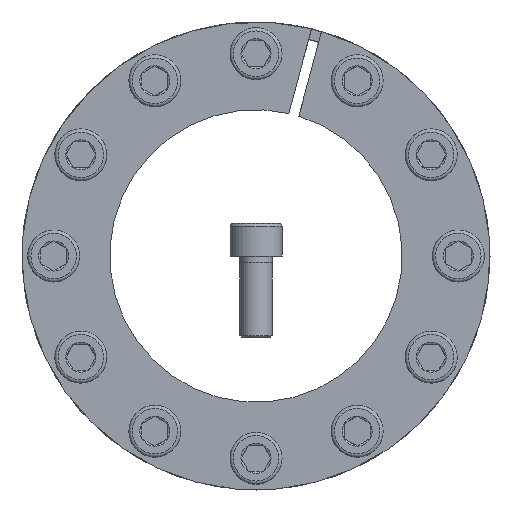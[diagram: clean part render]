
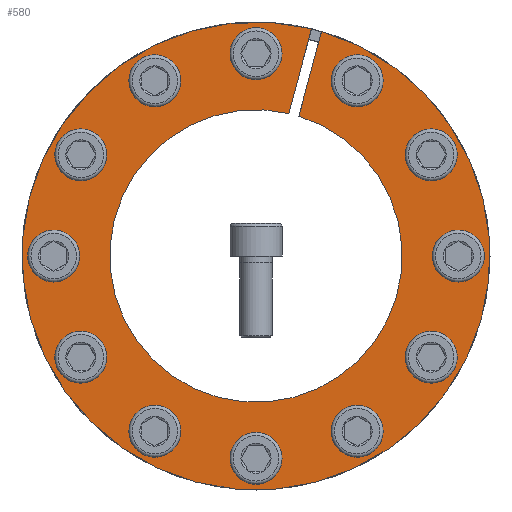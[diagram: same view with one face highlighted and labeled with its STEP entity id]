
A CAD part, front view. The second image highlights one B-rep face of the part: STEP entity #580.
In plain terms, the highlighted planar face has unit normal (0, -1, 0).
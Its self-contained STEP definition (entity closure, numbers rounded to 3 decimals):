
#580 = ADVANCED_FACE( '', ( #1088, #1089, #1090, #1091, #1092, #1093, #1094, #1095, #1096, #1097, #1098, #1099, #1100 ), #1101, .F. );
#1088 = FACE_BOUND( '', #1924, .T. );
#1089 = FACE_BOUND( '', #1925, .T. );
#1090 = FACE_BOUND( '', #1926, .T. );
#1091 = FACE_BOUND( '', #1927, .T. );
#1092 = FACE_BOUND( '', #1928, .T. );
#1093 = FACE_BOUND( '', #1929, .T. );
#1094 = FACE_BOUND( '', #1930, .T. );
#1095 = FACE_BOUND( '', #1931, .T. );
#1096 = FACE_BOUND( '', #1932, .T. );
#1097 = FACE_BOUND( '', #1933, .T. );
#1098 = FACE_BOUND( '', #1934, .T. );
#1099 = FACE_BOUND( '', #1935, .T. );
#1100 = FACE_OUTER_BOUND( '', #1936, .T. );
#1101 = PLANE( '', #1937 );
#1924 = EDGE_LOOP( '', ( #2869 ) );
#1925 = EDGE_LOOP( '', ( #2870 ) );
#1926 = EDGE_LOOP( '', ( #2871 ) );
#1927 = EDGE_LOOP( '', ( #2872 ) );
#1928 = EDGE_LOOP( '', ( #2873 ) );
#1929 = EDGE_LOOP( '', ( #2874 ) );
#1930 = EDGE_LOOP( '', ( #2875 ) );
#1931 = EDGE_LOOP( '', ( #2876 ) );
#1932 = EDGE_LOOP( '', ( #2877 ) );
#1933 = EDGE_LOOP( '', ( #2878 ) );
#1934 = EDGE_LOOP( '', ( #2879 ) );
#1935 = EDGE_LOOP( '', ( #2880 ) );
#1936 = EDGE_LOOP( '', ( #2881, #2882, #2883, #2884 ) );
#1937 = AXIS2_PLACEMENT_3D( '', #2885, #2886, #2887 );
#2869 = ORIENTED_EDGE( '', *, *, #4763, .T. );
#2870 = ORIENTED_EDGE( '', *, *, #4764, .T. );
#2871 = ORIENTED_EDGE( '', *, *, #4765, .T. );
#2872 = ORIENTED_EDGE( '', *, *, #4766, .T. );
#2873 = ORIENTED_EDGE( '', *, *, #4767, .T. );
#2874 = ORIENTED_EDGE( '', *, *, #4768, .T. );
#2875 = ORIENTED_EDGE( '', *, *, #4769, .T. );
#2876 = ORIENTED_EDGE( '', *, *, #4770, .T. );
#2877 = ORIENTED_EDGE( '', *, *, #4771, .T. );
#2878 = ORIENTED_EDGE( '', *, *, #4772, .T. );
#2879 = ORIENTED_EDGE( '', *, *, #4773, .T. );
#2880 = ORIENTED_EDGE( '', *, *, #4748, .T. );
#2881 = ORIENTED_EDGE( '', *, *, #4743, .T. );
#2882 = ORIENTED_EDGE( '', *, *, #4749, .T. );
#2883 = ORIENTED_EDGE( '', *, *, #4720, .T. );
#2884 = ORIENTED_EDGE( '', *, *, #4711, .F. );
#2885 = CARTESIAN_POINT( '', ( 0., 0., 72. ) );
#2886 = DIRECTION( '', ( 0., 1., 0. ) );
#2887 = DIRECTION( '', ( 0., 0., 1. ) );
#4711 = EDGE_CURVE( '', #5230, #5226, #5232, .T. );
#4720 = EDGE_CURVE( '', #5249, #5226, #5250, .T. );
#4743 = EDGE_CURVE( '', #5230, #5285, #5287, .T. );
#4748 = EDGE_CURVE( '', #5293, #5293, #5294, .T. );
#4749 = EDGE_CURVE( '', #5285, #5249, #5295, .T. );
#4763 = EDGE_CURVE( '', #5321, #5321, #5322, .T. );
#4764 = EDGE_CURVE( '', #5323, #5323, #5324, .T. );
#4765 = EDGE_CURVE( '', #5325, #5325, #5326, .T. );
#4766 = EDGE_CURVE( '', #5327, #5327, #5328, .T. );
#4767 = EDGE_CURVE( '', #5329, #5329, #5330, .T. );
#4768 = EDGE_CURVE( '', #5331, #5331, #5332, .T. );
#4769 = EDGE_CURVE( '', #5333, #5333, #5334, .T. );
#4770 = EDGE_CURVE( '', #5335, #5335, #5336, .T. );
#4771 = EDGE_CURVE( '', #5337, #5337, #5338, .T. );
#4772 = EDGE_CURVE( '', #5339, #5339, #5340, .T. );
#4773 = EDGE_CURVE( '', #5341, #5341, #5342, .T. );
#5226 = VERTEX_POINT( '', #5987 );
#5230 = VERTEX_POINT( '', #5992 );
#5232 = CIRCLE( '', #5995, 45. );
#5249 = VERTEX_POINT( '', #6020 );
#5250 = LINE( '', #6021, #6022 );
#5285 = VERTEX_POINT( '', #6086 );
#5287 = LINE( '', #6089, #6090 );
#5293 = VERTEX_POINT( '', #6096 );
#5294 = CIRCLE( '', #6097, 5. );
#5295 = CIRCLE( '', #6098, 72. );
#5321 = VERTEX_POINT( '', #6124 );
#5322 = CIRCLE( '', #6125, 5. );
#5323 = VERTEX_POINT( '', #6126 );
#5324 = CIRCLE( '', #6127, 5. );
#5325 = VERTEX_POINT( '', #6128 );
#5326 = CIRCLE( '', #6129, 5. );
#5327 = VERTEX_POINT( '', #6130 );
#5328 = CIRCLE( '', #6131, 5. );
#5329 = VERTEX_POINT( '', #6132 );
#5330 = CIRCLE( '', #6133, 5. );
#5331 = VERTEX_POINT( '', #6134 );
#5332 = CIRCLE( '', #6135, 5. );
#5333 = VERTEX_POINT( '', #6136 );
#5334 = CIRCLE( '', #6137, 5. );
#5335 = VERTEX_POINT( '', #6138 );
#5336 = CIRCLE( '', #6139, 5. );
#5337 = VERTEX_POINT( '', #6140 );
#5338 = CIRCLE( '', #6141, 5. );
#5339 = VERTEX_POINT( '', #6142 );
#5340 = CIRCLE( '', #6143, 5. );
#5341 = VERTEX_POINT( '', #6144 );
#5342 = CIRCLE( '', #6145, 5. );
#5987 = CARTESIAN_POINT( '', ( 13.185, 0., 43.025 ) );
#5992 = CARTESIAN_POINT( '', ( 10.094, 0., 43.853 ) );
#5995 = AXIS2_PLACEMENT_3D( '', #7432, #7433, #7434 );
#6020 = CARTESIAN_POINT( '', ( 20.176, 0., 69.115 ) );
#6021 = CARTESIAN_POINT( '', ( 20.18, 0., 69.133 ) );
#6022 = VECTOR( '', #7449, 1000. );
#6086 = CARTESIAN_POINT( '', ( 17.085, 0., 69.944 ) );
#6089 = CARTESIAN_POINT( '', ( 10.094, 0., 43.853 ) );
#6090 = VECTOR( '', #7474, 1000. );
#6096 = CARTESIAN_POINT( '', ( -26.795, 0., 56.41 ) );
#6097 = AXIS2_PLACEMENT_3D( '', #7487, #7488, #7489 );
#6098 = AXIS2_PLACEMENT_3D( '', #7490, #7491, #7492 );
#6124 = CARTESIAN_POINT( '', ( 5., 0., 62.25 ) );
#6125 = AXIS2_PLACEMENT_3D( '', #7532, #7533, #7534 );
#6126 = CARTESIAN_POINT( '', ( 35.455, 0., 51.41 ) );
#6127 = AXIS2_PLACEMENT_3D( '', #7535, #7536, #7537 );
#6128 = CARTESIAN_POINT( '', ( 56.41, 0., 26.795 ) );
#6129 = AXIS2_PLACEMENT_3D( '', #7538, #7539, #7540 );
#6130 = CARTESIAN_POINT( '', ( 62.25, 0., -5. ) );
#6131 = AXIS2_PLACEMENT_3D( '', #7541, #7542, #7543 );
#6132 = CARTESIAN_POINT( '', ( 51.41, 0., -35.455 ) );
#6133 = AXIS2_PLACEMENT_3D( '', #7544, #7545, #7546 );
#6134 = CARTESIAN_POINT( '', ( 26.795, 0., -56.41 ) );
#6135 = AXIS2_PLACEMENT_3D( '', #7547, #7548, #7549 );
#6136 = CARTESIAN_POINT( '', ( -5., 0., -62.25 ) );
#6137 = AXIS2_PLACEMENT_3D( '', #7550, #7551, #7552 );
#6138 = CARTESIAN_POINT( '', ( -35.455, 0., -51.41 ) );
#6139 = AXIS2_PLACEMENT_3D( '', #7553, #7554, #7555 );
#6140 = CARTESIAN_POINT( '', ( -56.41, 0., -26.795 ) );
#6141 = AXIS2_PLACEMENT_3D( '', #7556, #7557, #7558 );
#6142 = CARTESIAN_POINT( '', ( -62.25, 0., 5. ) );
#6143 = AXIS2_PLACEMENT_3D( '', #7559, #7560, #7561 );
#6144 = CARTESIAN_POINT( '', ( -51.41, 0., 35.455 ) );
#6145 = AXIS2_PLACEMENT_3D( '', #7562, #7563, #7564 );
#7432 = CARTESIAN_POINT( '', ( 0., 0., 0. ) );
#7433 = DIRECTION( '', ( 0., -1., 0. ) );
#7434 = DIRECTION( '', ( 0., 0., -1. ) );
#7449 = DIRECTION( '', ( -0.259, 0., -0.966 ) );
#7474 = DIRECTION( '', ( 0.259, 0., 0.966 ) );
#7487 = CARTESIAN_POINT( '', ( -31.125, 0., 53.91 ) );
#7488 = DIRECTION( '', ( 0., 1., 0. ) );
#7489 = DIRECTION( '', ( 0.866, 0., 0.5 ) );
#7490 = CARTESIAN_POINT( '', ( 0., 0., 0. ) );
#7491 = DIRECTION( '', ( 0., -1., 0. ) );
#7492 = DIRECTION( '', ( 0., 0., -1. ) );
#7532 = CARTESIAN_POINT( '', ( 0., 0., 62.25 ) );
#7533 = DIRECTION( '', ( 0., 1., 0. ) );
#7534 = DIRECTION( '', ( 1., 0., 0. ) );
#7535 = CARTESIAN_POINT( '', ( 31.125, 0., 53.91 ) );
#7536 = DIRECTION( '', ( 0., 1., 0. ) );
#7537 = DIRECTION( '', ( 0.866, 0., -0.5 ) );
#7538 = CARTESIAN_POINT( '', ( 53.91, 0., 31.125 ) );
#7539 = DIRECTION( '', ( 0., 1., 0. ) );
#7540 = DIRECTION( '', ( 0.5, 0., -0.866 ) );
#7541 = CARTESIAN_POINT( '', ( 62.25, 0., 0. ) );
#7542 = DIRECTION( '', ( 0., 1., 0. ) );
#7543 = DIRECTION( '', ( 0., 0., -1. ) );
#7544 = CARTESIAN_POINT( '', ( 53.91, 0., -31.125 ) );
#7545 = DIRECTION( '', ( 0., 1., 0. ) );
#7546 = DIRECTION( '', ( -0.5, 0., -0.866 ) );
#7547 = CARTESIAN_POINT( '', ( 31.125, 0., -53.91 ) );
#7548 = DIRECTION( '', ( 0., 1., 0. ) );
#7549 = DIRECTION( '', ( -0.866, 0., -0.5 ) );
#7550 = CARTESIAN_POINT( '', ( 0., 0., -62.25 ) );
#7551 = DIRECTION( '', ( 0., 1., 0. ) );
#7552 = DIRECTION( '', ( -1., 0., 0. ) );
#7553 = CARTESIAN_POINT( '', ( -31.125, 0., -53.91 ) );
#7554 = DIRECTION( '', ( 0., 1., 0. ) );
#7555 = DIRECTION( '', ( -0.866, 0., 0.5 ) );
#7556 = CARTESIAN_POINT( '', ( -53.91, 0., -31.125 ) );
#7557 = DIRECTION( '', ( 0., 1., 0. ) );
#7558 = DIRECTION( '', ( -0.5, 0., 0.866 ) );
#7559 = CARTESIAN_POINT( '', ( -62.25, 0., 0. ) );
#7560 = DIRECTION( '', ( 0., 1., 0. ) );
#7561 = DIRECTION( '', ( 0., 0., 1. ) );
#7562 = CARTESIAN_POINT( '', ( -53.91, 0., 31.125 ) );
#7563 = DIRECTION( '', ( 0., 1., 0. ) );
#7564 = DIRECTION( '', ( 0.5, 0., 0.866 ) );
